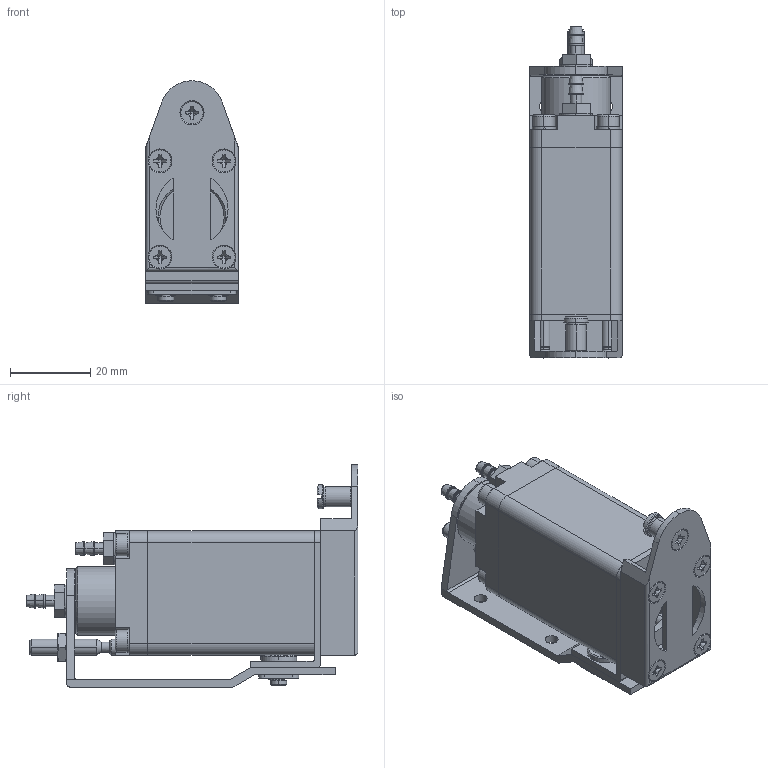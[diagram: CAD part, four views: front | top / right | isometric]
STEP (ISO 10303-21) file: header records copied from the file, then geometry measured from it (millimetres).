
FILE_DESCRIPTION (( 'STEP AP214' ), '1' );
FILE_NAME ('GT-NY05R.STEP', '2019-11-26T07:29:18', ( '微软用户' ), ( '微软中国' ), 'SwSTEP 2.0', 'SolidWorks 2016', '' );
FILE_SCHEMA (( 'AUTOMOTIVE_DESIGN' ));
Length unit declared in the file: millimetre
Products named in the file (1): GT-NY05R
Bounding box: 23 x 82.8 x 55.5 mm (x, y, z)
Surface area: 22302.7 mm2 (no closed solid volume)
Topology: 0 solids, 112 shells, 871 faces, 2398 edges, 1689 vertices
Faces by surface type: plane 400, cylinder 305, bspline 98, cone 52, torus 16
Entity records: 40735 total; most frequent: CARTESIAN_POINT 14234, ORIENTED_EDGE 4298, DIRECTION 4187, EDGE_CURVE 2388, VERTEX_POINT 1689, AXIS2_PLACEMENT_3D 1583, LINE 1021, VECTOR 1021
